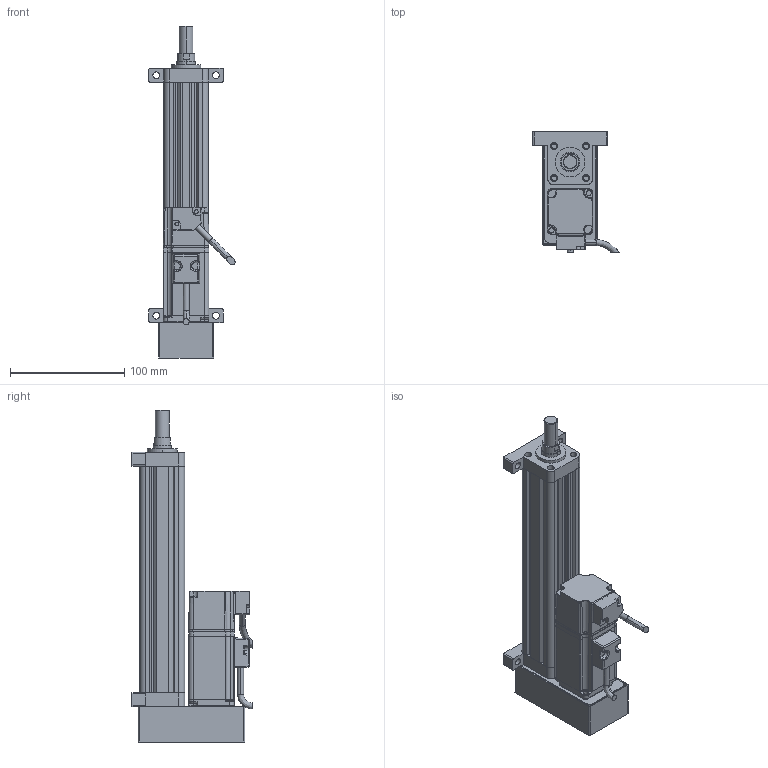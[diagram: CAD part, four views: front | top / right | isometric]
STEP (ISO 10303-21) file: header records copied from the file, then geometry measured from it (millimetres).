
FILE_DESCRIPTION (( 'STEP AP214' ), '1' );
FILE_NAME ('039-S150-D02-B-M2-C1-2.STEP', '2021-02-25T08:47:09', ( '' ), ( '' ), 'SwSTEP 2.0', 'SolidWorks 2018', '' );
FILE_SCHEMA (( 'AUTOMOTIVE_DESIGN' ));
Length unit declared in the file: millimetre
Products named in the file (8): 039-S150-D02-B-M2-C1-2; ECMA-CX0401ES-40框號系列機種-100W低慣量系列; CMC039-HDB; CMC039-GT; CMC039-QDB; CMC039-LJB; CMC039-XT; CMC039-DT
Assembly tree (7 placements, depth 2):
  039-S150-D02-B-M2-C1-2
    CMC039-GT
    CMC039-LJB
    CMC039-XT
    CMC039-DT
    ECMA-CX0401ES-40框號系列機種-100W低慣量系列
    CMC039-QDB
    CMC039-HDB
Bounding box: 75.34 x 104.89 x 290 mm (x, y, z)
Volume: 438948 mm3; surface area: 149570 mm2
Topology: 7 solids, 15 shells, 637 faces, 1658 edges, 1033 vertices
Faces by surface type: cylinder 260, plane 254, bspline 84, cone 39
Entity records: 25542 total; most frequent: CARTESIAN_POINT 10820, ORIENTED_EDGE 3250, DIRECTION 2583, EDGE_CURVE 1625, VERTEX_POINT 1033, AXIS2_PLACEMENT_3D 883, VECTOR 817, LINE 817
